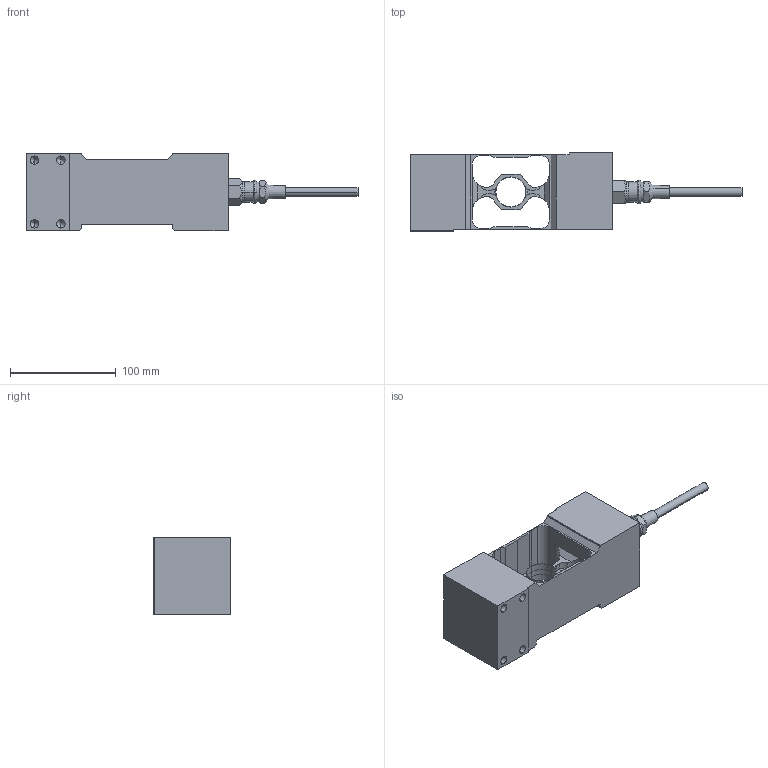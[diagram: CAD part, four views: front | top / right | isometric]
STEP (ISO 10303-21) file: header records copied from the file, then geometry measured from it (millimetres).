
FILE_DESCRIPTION (( 'STEP AP203' ), '1' );
FILE_NAME ('Load_Sensor_HISPB1.STEP', '2014-10-07T22:33:08', ( '' ), ( '' ), 'SwSTEP 2.0', 'SolidWorks 2013', '' );
FILE_SCHEMA (( 'CONFIG_CONTROL_DESIGN' ));
Length unit declared in the file: millimetre
Products named in the file (5): SPB1 Element; Cable Adapter; Adapter Nut; Cable; Load_Sensor_HISPB1
Assembly tree (4 placements, depth 2):
  Load_Sensor_HISPB1
    SPB1 Element
    Cable Adapter
    Adapter Nut
    Cable
Bounding box: 313.54 x 73.66 x 73.66 mm (x, y, z)
Volume: 649019.3 mm3; surface area: 90825 mm2
Topology: 4 solids, 4 shells, 217 faces, 586 edges, 372 vertices
Faces by surface type: cylinder 92, plane 85, cone 34, bspline 6
Entity records: 7609 total; most frequent: CARTESIAN_POINT 1586, DIRECTION 1208, ORIENTED_EDGE 1140, EDGE_CURVE 570, AXIS2_PLACEMENT_3D 454, VERTEX_POINT 372, LINE 300, VECTOR 300
